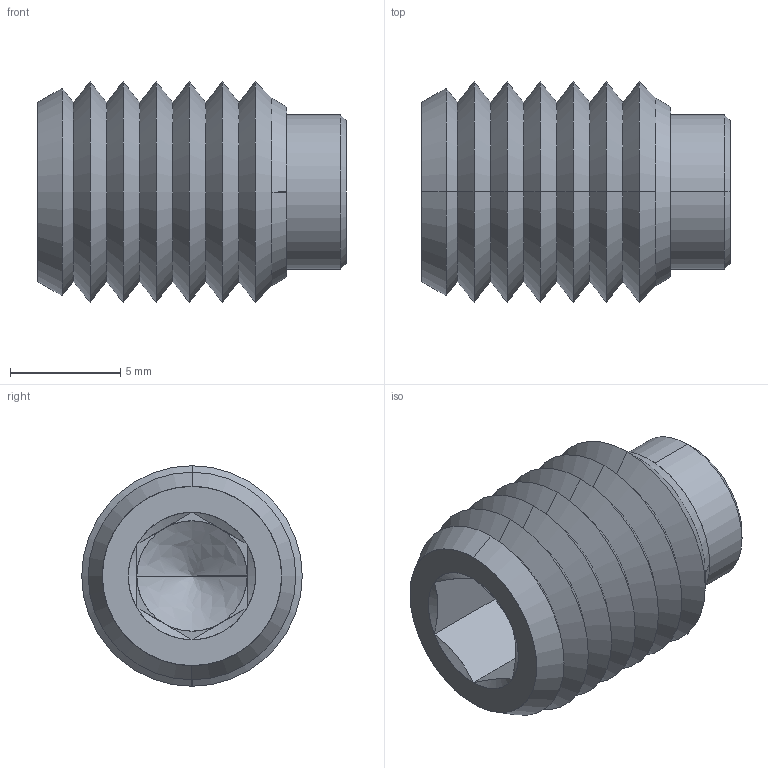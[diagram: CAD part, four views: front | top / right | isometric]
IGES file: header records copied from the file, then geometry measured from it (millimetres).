
Start section: SolidWorks IGES file using analytic representation for surfaces
Global section: file name: C:\Users\IanO\Desktop\P0120_v2_230406\P0120_v2_20230506_IGES\P0120.100-014.igs; native system: SolidWorks 2019; preprocessor: SolidWorks 2019; author: IanO; date: 230406.142459; units: millimetre
Bounding box: 14 x 10 x 10 mm (x, y, z)
Surface area: 922.4 mm2 (no closed solid volume)
Topology: 0 solids, 0 shells, 61 faces, 502 edges, 500 vertices
Faces by surface type: revolution 44, bspline 17
